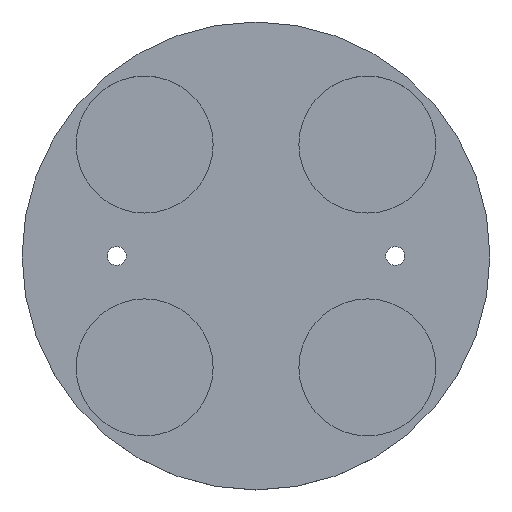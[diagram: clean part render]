
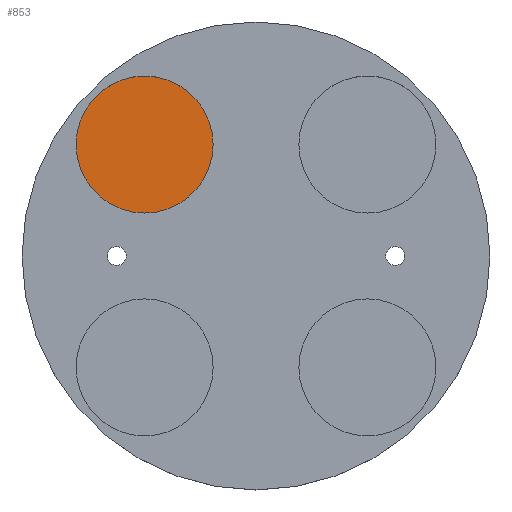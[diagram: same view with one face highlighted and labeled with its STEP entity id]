
A CAD part, top view. The second image highlights one B-rep face of the part: STEP entity #853.
In plain terms, the highlighted planar face has unit normal (0, 0, 1).
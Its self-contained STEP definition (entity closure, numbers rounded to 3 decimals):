
#312 = CYLINDRICAL_SURFACE('',#313,12.3);
#313 = AXIS2_PLACEMENT_3D('',#314,#315,#316);
#314 = CARTESIAN_POINT('',(-20.,20.,-2.4));
#315 = DIRECTION('',(-0.,-0.,-1.));
#316 = DIRECTION('',(1.,0.,0.));
#671 = EDGE_CURVE('',#672,#672,#674,.T.);
#672 = VERTEX_POINT('',#673);
#673 = CARTESIAN_POINT('',(-7.7,20.,-2.4));
#674 = SURFACE_CURVE('',#675,(#680,#687),.PCURVE_S1.);
#675 = CIRCLE('',#676,12.3);
#676 = AXIS2_PLACEMENT_3D('',#677,#678,#679);
#677 = CARTESIAN_POINT('',(-20.,20.,-2.4));
#678 = DIRECTION('',(0.,0.,1.));
#679 = DIRECTION('',(1.,0.,0.));
#680 = PCURVE('',#312,#681);
#681 = DEFINITIONAL_REPRESENTATION('',(#682),#686);
#682 = LINE('',#683,#684);
#683 = CARTESIAN_POINT('',(-0.,0.));
#684 = VECTOR('',#685,1.);
#685 = DIRECTION('',(-1.,0.));
#686 = ( GEOMETRIC_REPRESENTATION_CONTEXT(2) 
PARAMETRIC_REPRESENTATION_CONTEXT() REPRESENTATION_CONTEXT('2D SPACE',''
  ) );
#687 = PCURVE('',#688,#693);
#688 = PLANE('',#689);
#689 = AXIS2_PLACEMENT_3D('',#690,#691,#692);
#690 = CARTESIAN_POINT('',(-20.,20.,-2.4));
#691 = DIRECTION('',(0.,0.,1.));
#692 = DIRECTION('',(1.,0.,-0.));
#693 = DEFINITIONAL_REPRESENTATION('',(#694),#698);
#694 = CIRCLE('',#695,12.3);
#695 = AXIS2_PLACEMENT_2D('',#696,#697);
#696 = CARTESIAN_POINT('',(0.,0.));
#697 = DIRECTION('',(1.,0.));
#698 = ( GEOMETRIC_REPRESENTATION_CONTEXT(2) 
PARAMETRIC_REPRESENTATION_CONTEXT() REPRESENTATION_CONTEXT('2D SPACE',''
  ) );
#853 = ADVANCED_FACE('',(#854),#688,.T.);
#854 = FACE_BOUND('',#855,.T.);
#855 = EDGE_LOOP('',(#856));
#856 = ORIENTED_EDGE('',*,*,#671,.T.);
